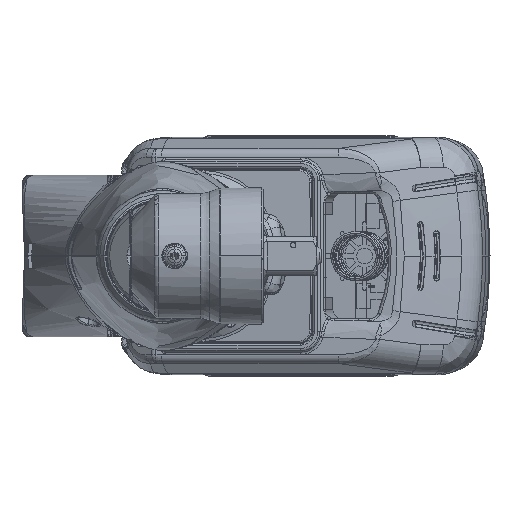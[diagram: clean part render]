
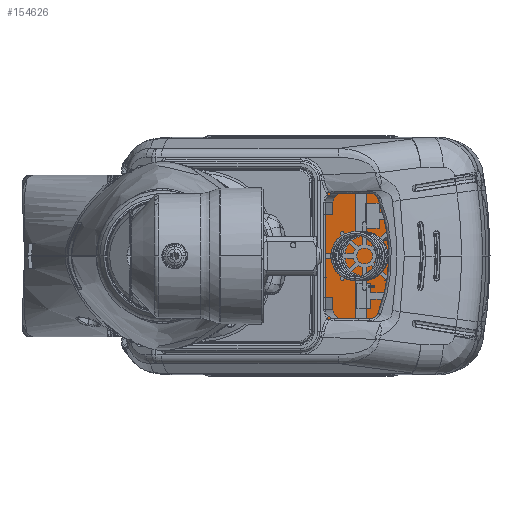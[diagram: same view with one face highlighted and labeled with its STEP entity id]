
A CAD part, left-side view. The second image highlights one B-rep face of the part: STEP entity #154626.
In plain terms, the highlighted planar face has unit normal (0.99, -0.139, 0).
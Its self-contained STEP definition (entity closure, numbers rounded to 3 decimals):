
#3221 = CARTESIAN_POINT ( 'NONE',  ( 358.949, -37.262, -25.1 ) ) ;
#5076 = VERTEX_POINT ( 'NONE', #208640 ) ;
#6632 = CARTESIAN_POINT ( 'NONE',  ( 359.227, -35.281, 23.1 ) ) ;
#8648 = EDGE_CURVE ( 'NONE', #13090, #184806, #204149, .T. ) ;
#13090 = VERTEX_POINT ( 'NONE', #68131 ) ;
#24133 = CARTESIAN_POINT ( 'NONE',  ( 358.949, -37.262, -25.1 ) ) ;
#27587 = CARTESIAN_POINT ( 'NONE',  ( 353.633, -75.09, 23.1 ) ) ;
#28501 = VERTEX_POINT ( 'NONE', #27587 ) ;
#28700 = ORIENTED_EDGE ( 'NONE', *, *, #69147, .T. ) ;
#34320 = AXIS2_PLACEMENT_3D ( 'NONE', #81335, #94407, #96517 ) ;
#40705 = VERTEX_POINT ( 'NONE', #24133 ) ;
#49982 = DIRECTION ( 'NONE',  ( 0.99, -0.139, 0. ) ) ;
#50314 = CARTESIAN_POINT ( 'NONE',  ( 353.633, -75.09, 23.1 ) ) ;
#51894 = LINE ( 'NONE', #3221, #127984 ) ;
#54913 = CARTESIAN_POINT ( 'NONE',  ( 354.329, -70.139, -25.1 ) ) ;
#55299 = EDGE_CURVE ( 'NONE', #184806, #40705, #51894, .T. ) ;
#58412 = AXIS2_PLACEMENT_3D ( 'NONE', #165719, #66252, #113892 ) ;
#58738 = AXIS2_PLACEMENT_3D ( 'NONE', #198195, #49982, #181915 ) ;
#61960 = FACE_OUTER_BOUND ( 'NONE', #109670, .T. ) ;
#66252 = DIRECTION ( 'NONE',  ( 0.99, -0.139, 0. ) ) ;
#68131 = CARTESIAN_POINT ( 'NONE',  ( 353.633, -75.09, -20.1 ) ) ;
#69147 = EDGE_CURVE ( 'NONE', #196448, #28501, #155014, .T. ) ;
#71365 = DIRECTION ( 'NONE',  ( 0.99, -0.139, 0. ) ) ;
#77830 = VERTEX_POINT ( 'NONE', #208763 ) ;
#81335 = CARTESIAN_POINT ( 'NONE',  ( 358.949, -37.262, 23.1 ) ) ;
#83869 = ORIENTED_EDGE ( 'NONE', *, *, #55299, .T. ) ;
#86279 = DIRECTION ( 'NONE',  ( 0.098, 0.7, -0.707 ) ) ;
#88892 = LINE ( 'NONE', #154847, #116887 ) ;
#89182 = AXIS2_PLACEMENT_3D ( 'NONE', #121158, #71365, #186038 ) ;
#89965 = DIRECTION ( 'NONE',  ( -0.139, -0.99, 0. ) ) ;
#93640 = CARTESIAN_POINT ( 'NONE',  ( 359.227, -35.281, 23.1 ) ) ;
#94407 = DIRECTION ( 'NONE',  ( 0.99, -0.139, 0. ) ) ;
#96517 = DIRECTION ( 'NONE',  ( -0.139, -0.99, 0. ) ) ;
#103786 = DIRECTION ( 'NONE',  ( 0.139, 0.99, 0. ) ) ;
#105828 = ORIENTED_EDGE ( 'NONE', *, *, #197135, .T. ) ;
#106668 = DIRECTION ( 'NONE',  ( 0., 0., 1. ) ) ;
#108251 = EDGE_CURVE ( 'NONE', #40705, #5076, #110086, .T. ) ;
#109670 = EDGE_LOOP ( 'NONE', ( #194717, #208800, #28700, #105828, #183193, #83869, #195657, #157370 ) ) ;
#110086 = CIRCLE ( 'NONE', #89182, 2. ) ;
#113892 = DIRECTION ( 'NONE',  ( 0.139, 0.99, 0. ) ) ;
#116887 = VECTOR ( 'NONE', #89965, 1000. ) ;
#121158 = CARTESIAN_POINT ( 'NONE',  ( 358.949, -37.262, -23.1 ) ) ;
#127682 = VECTOR ( 'NONE', #106668, 1000. ) ;
#127984 = VECTOR ( 'NONE', #103786, 1000. ) ;
#134375 = VERTEX_POINT ( 'NONE', #6632 ) ;
#148718 = LINE ( 'NONE', #50314, #195836 ) ;
#149766 = DIRECTION ( 'NONE',  ( 0., 0., -1. ) ) ;
#151589 = CARTESIAN_POINT ( 'NONE',  ( 353.911, -73.109, 25.1 ) ) ;
#154379 = CARTESIAN_POINT ( 'NONE',  ( 354.329, -70.139, -25.1 ) ) ;
#154626 = ADVANCED_FACE ( 'NONE', ( #61960 ), #176604, .T. ) ;
#154847 = CARTESIAN_POINT ( 'NONE',  ( 358.949, -37.262, 25.1 ) ) ;
#155014 = CIRCLE ( 'NONE', #58412, 2. ) ;
#157370 = ORIENTED_EDGE ( 'NONE', *, *, #167744, .T. ) ;
#159997 = EDGE_CURVE ( 'NONE', #134375, #77830, #186580, .T. ) ;
#165719 = CARTESIAN_POINT ( 'NONE',  ( 353.911, -73.109, 23.1 ) ) ;
#166124 = EDGE_CURVE ( 'NONE', #77830, #196448, #88892, .T. ) ;
#167744 = EDGE_CURVE ( 'NONE', #5076, #134375, #193190, .T. ) ;
#176604 = PLANE ( 'NONE',  #34320 ) ;
#181915 = DIRECTION ( 'NONE',  ( -0.139, -0.99, 0. ) ) ;
#183193 = ORIENTED_EDGE ( 'NONE', *, *, #8648, .T. ) ;
#184806 = VERTEX_POINT ( 'NONE', #154379 ) ;
#186038 = DIRECTION ( 'NONE',  ( -0.139, -0.99, 0. ) ) ;
#186580 = CIRCLE ( 'NONE', #58738, 2. ) ;
#193190 = LINE ( 'NONE', #93640, #127682 ) ;
#194717 = ORIENTED_EDGE ( 'NONE', *, *, #159997, .T. ) ;
#195657 = ORIENTED_EDGE ( 'NONE', *, *, #108251, .T. ) ;
#195836 = VECTOR ( 'NONE', #149766, 1000. ) ;
#196448 = VERTEX_POINT ( 'NONE', #151589 ) ;
#197135 = EDGE_CURVE ( 'NONE', #28501, #13090, #148718, .T. ) ;
#198195 = CARTESIAN_POINT ( 'NONE',  ( 358.949, -37.262, 23.1 ) ) ;
#204149 = LINE ( 'NONE', #54913, #210639 ) ;
#208640 = CARTESIAN_POINT ( 'NONE',  ( 359.227, -35.281, -23.1 ) ) ;
#208763 = CARTESIAN_POINT ( 'NONE',  ( 358.949, -37.262, 25.1 ) ) ;
#208800 = ORIENTED_EDGE ( 'NONE', *, *, #166124, .T. ) ;
#210639 = VECTOR ( 'NONE', #86279, 1000. ) ;
